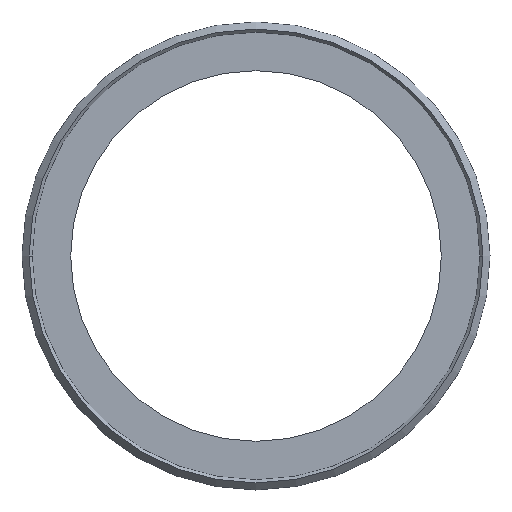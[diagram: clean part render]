
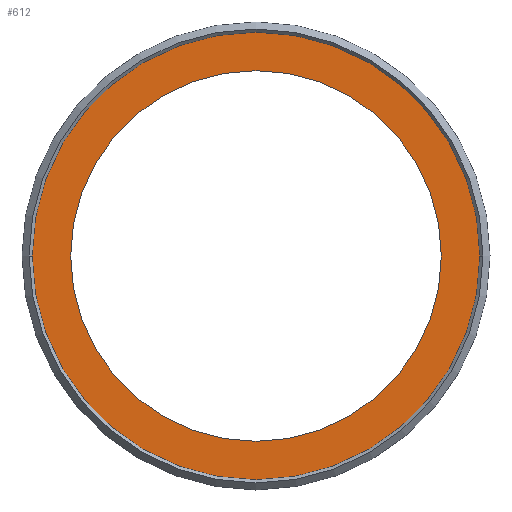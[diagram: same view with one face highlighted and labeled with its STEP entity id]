
A CAD part, left-side view. The second image highlights one B-rep face of the part: STEP entity #612.
In plain terms, the highlighted planar face has unit normal (-1, 0, 0).
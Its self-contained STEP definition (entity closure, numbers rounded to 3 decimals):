
#130=CARTESIAN_POINT('',(0.55,33.9,0.0));
#131=VERTEX_POINT('',#130);
#140=CARTESIAN_POINT('',(0.55,-33.9,0.));
#141=VERTEX_POINT('',#140);
#142=CARTESIAN_POINT('',(0.55,0.0,0.0));
#143=DIRECTION('',(-1.0,0.0,0.0));
#144=DIRECTION('',(0.0,1.0,0.0));
#145=AXIS2_PLACEMENT_3D('',#142,#143,#144);
#146=CIRCLE('',#145,33.9);
#147=EDGE_CURVE('',#131,#141,#146,.T.);
#246=CARTESIAN_POINT('',(0.55,40.95,0.0));
#247=VERTEX_POINT('',#246);
#255=CARTESIAN_POINT('',(0.55,-40.95,0.));
#256=VERTEX_POINT('',#255);
#263=CARTESIAN_POINT('',(0.55,0.0,0.0));
#264=DIRECTION('',(-1.0,0.0,0.0));
#265=DIRECTION('',(0.0,1.0,0.0));
#266=AXIS2_PLACEMENT_3D('',#263,#264,#265);
#267=CIRCLE('',#266,40.95);
#268=EDGE_CURVE('',#247,#256,#267,.T.);
#587=CARTESIAN_POINT('',(0.55,37.425,0.0));
#588=DIRECTION('',(1.0,0.0,0.0));
#589=DIRECTION('',(0.0,0.0,-1.0));
#590=AXIS2_PLACEMENT_3D('',#587,#588,#589);
#591=PLANE('',#590);
#592=ORIENTED_EDGE('',*,*,#268,.T.);
#593=CARTESIAN_POINT('',(0.55,0.0,0.0));
#594=DIRECTION('',(-1.0,0.0,0.0));
#595=DIRECTION('',(0.0,1.0,0.0));
#596=AXIS2_PLACEMENT_3D('',#593,#594,#595);
#597=CIRCLE('',#596,40.95);
#598=EDGE_CURVE('',#256,#247,#597,.T.);
#599=ORIENTED_EDGE('',*,*,#598,.T.);
#600=EDGE_LOOP('',(#592,#599));
#601=FACE_OUTER_BOUND('',#600,.T.);
#602=ORIENTED_EDGE('',*,*,#147,.F.);
#603=CARTESIAN_POINT('',(0.55,0.0,0.0));
#604=DIRECTION('',(-1.0,0.0,0.0));
#605=DIRECTION('',(0.0,1.0,0.0));
#606=AXIS2_PLACEMENT_3D('',#603,#604,#605);
#607=CIRCLE('',#606,33.9);
#608=EDGE_CURVE('',#141,#131,#607,.T.);
#609=ORIENTED_EDGE('',*,*,#608,.F.);
#610=EDGE_LOOP('',(#602,#609));
#611=FACE_BOUND('',#610,.T.);
#612=ADVANCED_FACE('',(#601,#611),#591,.F.);
